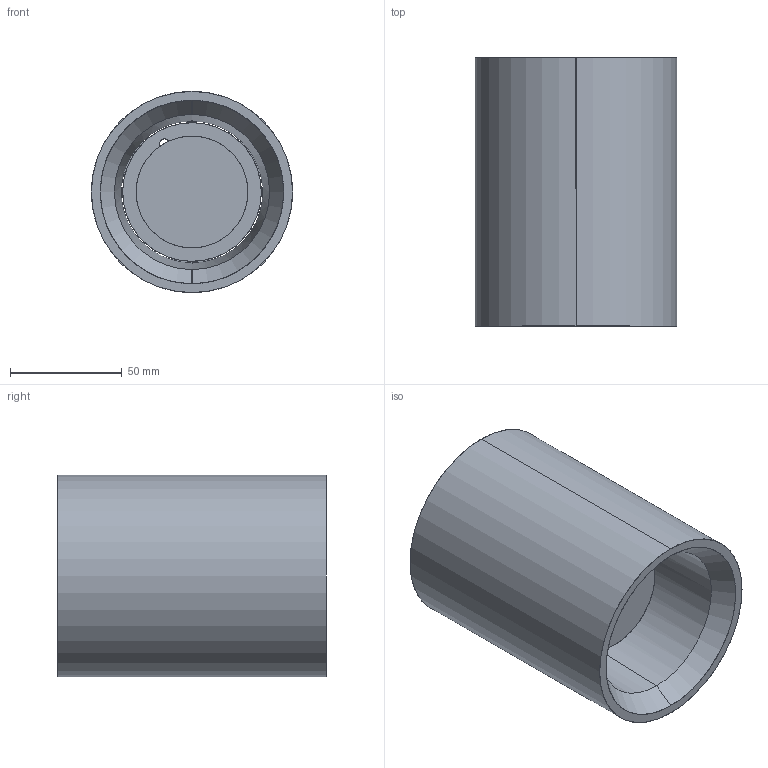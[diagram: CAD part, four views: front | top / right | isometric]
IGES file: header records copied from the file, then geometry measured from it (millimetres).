
Start section: SolidWorks IGES file using analytic representation for surfaces
Global section: file name: E:\3D lampy\Shy\SHY_9390.IGS; native system: SolidWorks 2017; preprocessor: SolidWorks 2017; author: Asia; date: 180119.141737; units: millimetre
Bounding box: 90 x 120 x 90 mm (x, y, z)
Surface area: 84761.3 mm2 (no closed solid volume)
Topology: 0 solids, 0 shells, 250 faces, 4550 edges, 4535 vertices
Faces by surface type: bspline 130, revolution 120
